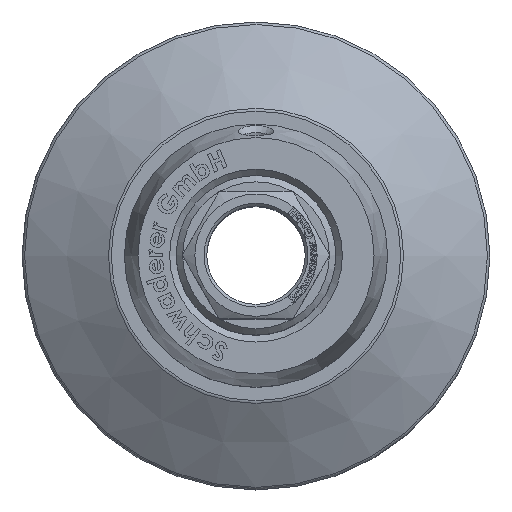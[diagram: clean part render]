
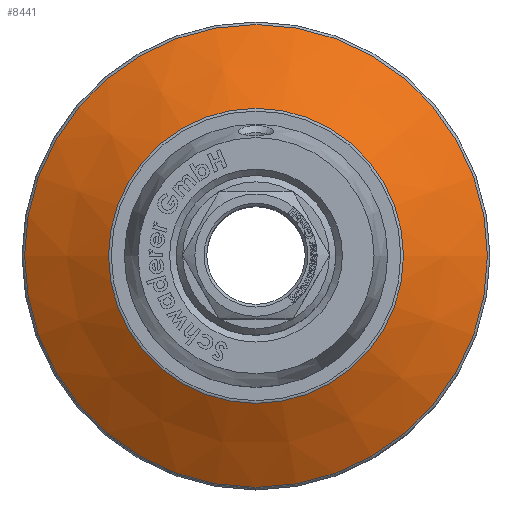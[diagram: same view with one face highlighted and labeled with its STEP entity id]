
A CAD part, top view. The second image highlights one B-rep face of the part: STEP entity #8441.
In plain terms, the highlighted conical face has half-angle 58.782 degrees and reference radius 35.75 mm.
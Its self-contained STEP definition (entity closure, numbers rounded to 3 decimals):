
#967=LINE('',#10956,#1748);
#1748=VECTOR('',#9367,35.75);
#2529=CONICAL_SURFACE('',#8948,35.75,1.026);
#2547=FACE_OUTER_BOUND('',#3026,.T.);
#3026=EDGE_LOOP('',(#5843,#5844,#5845,#5846,#5847,#5848));
#3556=CIRCLE('',#8945,27.739);
#3557=CIRCLE('',#8946,27.739);
#3559=CIRCLE('',#8949,43.518);
#3560=CIRCLE('',#8950,43.518);
#3670=VERTEX_POINT('',#10945);
#3671=VERTEX_POINT('',#10947);
#3672=VERTEX_POINT('',#10952);
#3673=VERTEX_POINT('',#10953);
#4539=EDGE_CURVE('',#3670,#3671,#3556,.T.);
#4540=EDGE_CURVE('',#3671,#3670,#3557,.T.);
#4542=EDGE_CURVE('',#3672,#3673,#3559,.T.);
#4543=EDGE_CURVE('',#3673,#3672,#3560,.T.);
#4544=EDGE_CURVE('',#3673,#3670,#967,.T.);
#5843=ORIENTED_EDGE('',*,*,#4542,.F.);
#5844=ORIENTED_EDGE('',*,*,#4543,.F.);
#5845=ORIENTED_EDGE('',*,*,#4544,.T.);
#5846=ORIENTED_EDGE('',*,*,#4540,.F.);
#5847=ORIENTED_EDGE('',*,*,#4539,.F.);
#5848=ORIENTED_EDGE('',*,*,#4544,.F.);
#8441=ADVANCED_FACE('',(#2547),#2529,.T.);
#8945=AXIS2_PLACEMENT_3D('',#10948,#9355,#9356);
#8946=AXIS2_PLACEMENT_3D('',#10949,#9357,#9358);
#8948=AXIS2_PLACEMENT_3D('',#10951,#9361,#9362);
#8949=AXIS2_PLACEMENT_3D('',#10954,#9363,#9364);
#8950=AXIS2_PLACEMENT_3D('',#10955,#9365,#9366);
#9355=DIRECTION('center_axis',(0.,0.,
1.));
#9356=DIRECTION('ref_axis',(-1.,0.,0.));
#9357=DIRECTION('center_axis',(0.,0.,
1.));
#9358=DIRECTION('ref_axis',(-1.,0.,0.));
#9361=DIRECTION('center_axis',(0.,0.,-1.));
#9362=DIRECTION('ref_axis',(1.,0.,0.));
#9363=DIRECTION('center_axis',(0.,0.,
-1.));
#9364=DIRECTION('ref_axis',(-1.,0.,0.));
#9365=DIRECTION('center_axis',(0.,0.,
-1.));
#9366=DIRECTION('ref_axis',(-1.,0.,0.));
#9367=DIRECTION('',(0.855,0.,0.518));
#10945=CARTESIAN_POINT('',(-27.739,0.,-24.012));
#10947=CARTESIAN_POINT('',(27.739,0.,-24.012));
#10948=CARTESIAN_POINT('Origin',(0.,0.,
-24.012));
#10949=CARTESIAN_POINT('Origin',(0.,0.,
-24.012));
#10951=CARTESIAN_POINT('Origin',(0.,0.,-28.867));
#10952=CARTESIAN_POINT('',(43.518,0.,-33.575));
#10953=CARTESIAN_POINT('',(-43.518,0.,-33.575));
#10954=CARTESIAN_POINT('Origin',(0.,0.,
-33.575));
#10955=CARTESIAN_POINT('Origin',(0.,0.,
-33.575));
#10956=CARTESIAN_POINT('',(-35.75,0.,-28.867));
